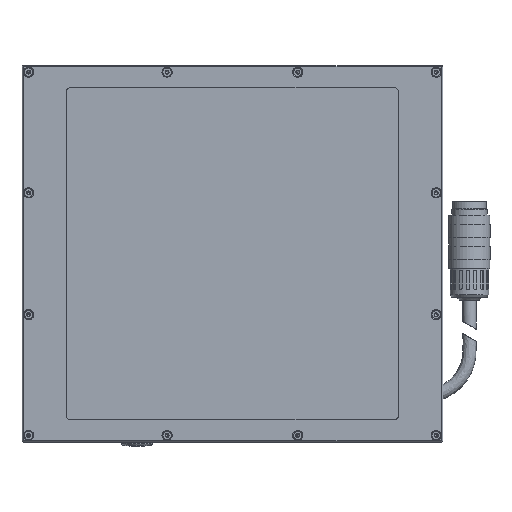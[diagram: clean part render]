
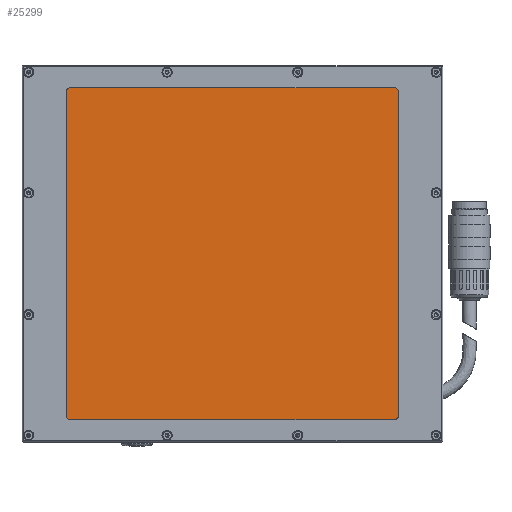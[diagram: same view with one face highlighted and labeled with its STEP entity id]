
A CAD part, top view. The second image highlights one B-rep face of the part: STEP entity #25299.
In plain terms, the highlighted planar face has unit normal (0, 0, 1).
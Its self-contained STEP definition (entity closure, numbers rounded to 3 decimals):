
#1226=LINE('',#43946,#2381);
#1230=LINE('',#43954,#2385);
#1233=LINE('',#43960,#2388);
#1236=LINE('',#43966,#2391);
#2381=VECTOR('',#31327,1000.);
#2385=VECTOR('',#31333,1000.);
#2388=VECTOR('',#31338,1000.);
#2391=VECTOR('',#31343,1000.);
#7924=ORIENTED_EDGE('',*,*,#10733,.T.);
#7925=ORIENTED_EDGE('',*,*,#10736,.T.);
#7926=ORIENTED_EDGE('',*,*,#10730,.T.);
#7927=ORIENTED_EDGE('',*,*,#10737,.T.);
#7928=ORIENTED_EDGE('',*,*,#10727,.T.);
#7929=ORIENTED_EDGE('',*,*,#10738,.T.);
#7930=ORIENTED_EDGE('',*,*,#10723,.T.);
#7931=ORIENTED_EDGE('',*,*,#10735,.T.);
#10723=EDGE_CURVE('',#12517,#12518,#1226,.T.);
#10727=EDGE_CURVE('',#12520,#12519,#1230,.T.);
#10730=EDGE_CURVE('',#12522,#12521,#1233,.T.);
#10733=EDGE_CURVE('',#12524,#12523,#1236,.T.);
#10735=EDGE_CURVE('',#12518,#12524,#13411,.T.);
#10736=EDGE_CURVE('',#12523,#12522,#13412,.T.);
#10737=EDGE_CURVE('',#12521,#12520,#13413,.T.);
#10738=EDGE_CURVE('',#12519,#12517,#13414,.T.);
#12517=VERTEX_POINT('',#43947);
#12518=VERTEX_POINT('',#43948);
#12519=VERTEX_POINT('',#43953);
#12520=VERTEX_POINT('',#43955);
#12521=VERTEX_POINT('',#43959);
#12522=VERTEX_POINT('',#43961);
#12523=VERTEX_POINT('',#43965);
#12524=VERTEX_POINT('',#43967);
#13411=CIRCLE('',#27013,2.);
#13412=CIRCLE('',#27015,2.);
#13413=CIRCLE('',#27017,2.);
#13414=CIRCLE('',#27019,2.);
#14605=EDGE_LOOP('',(#7924,#7925,#7926,#7927,#7928,#7929,#7930,#7931));
#16036=FACE_BOUND('',#14605,.T.);
#16772=PLANE('',#27020);
#25299=ADVANCED_FACE('',(#16036),#16772,.T.);
#27013=AXIS2_PLACEMENT_3D('',#43970,#31347,#31348);
#27015=AXIS2_PLACEMENT_3D('',#43972,#31351,#31352);
#27017=AXIS2_PLACEMENT_3D('',#43974,#31355,#31356);
#27019=AXIS2_PLACEMENT_3D('',#43976,#31359,#31360);
#27020=AXIS2_PLACEMENT_3D('',#43977,#31361,#31362);
#31327=DIRECTION('',(-1.,0.,0.));
#31333=DIRECTION('',(0.,1.,0.));
#31338=DIRECTION('',(1.,0.,0.));
#31343=DIRECTION('',(0.,-1.,0.));
#31347=DIRECTION('',(0.,0.,1.));
#31348=DIRECTION('',(1.,0.,0.));
#31351=DIRECTION('',(0.,0.,1.));
#31352=DIRECTION('',(1.,0.,0.));
#31355=DIRECTION('',(0.,0.,1.));
#31356=DIRECTION('',(1.,0.,0.));
#31359=DIRECTION('',(0.,0.,1.));
#31360=DIRECTION('',(1.,0.,0.));
#31361=DIRECTION('',(0.,0.,1.));
#31362=DIRECTION('',(1.,0.,0.));
#43946=CARTESIAN_POINT('',(75.5,75.5,23.8));
#43947=CARTESIAN_POINT('',(73.5,75.5,23.8));
#43948=CARTESIAN_POINT('',(-73.5,75.5,23.8));
#43953=CARTESIAN_POINT('',(75.5,73.5,23.8));
#43954=CARTESIAN_POINT('',(75.5,-75.5,23.8));
#43955=CARTESIAN_POINT('',(75.5,-73.5,23.8));
#43959=CARTESIAN_POINT('',(73.5,-75.5,23.8));
#43960=CARTESIAN_POINT('',(-75.5,-75.5,23.8));
#43961=CARTESIAN_POINT('',(-73.5,-75.5,23.8));
#43965=CARTESIAN_POINT('',(-75.5,-73.5,23.8));
#43966=CARTESIAN_POINT('',(-75.5,75.5,23.8));
#43967=CARTESIAN_POINT('',(-75.5,73.5,23.8));
#43970=CARTESIAN_POINT('',(-73.5,73.5,23.8));
#43972=CARTESIAN_POINT('',(-73.5,-73.5,23.8));
#43974=CARTESIAN_POINT('',(73.5,-73.5,23.8));
#43976=CARTESIAN_POINT('',(73.5,73.5,23.8));
#43977=CARTESIAN_POINT('',(0.,0.,23.8));
